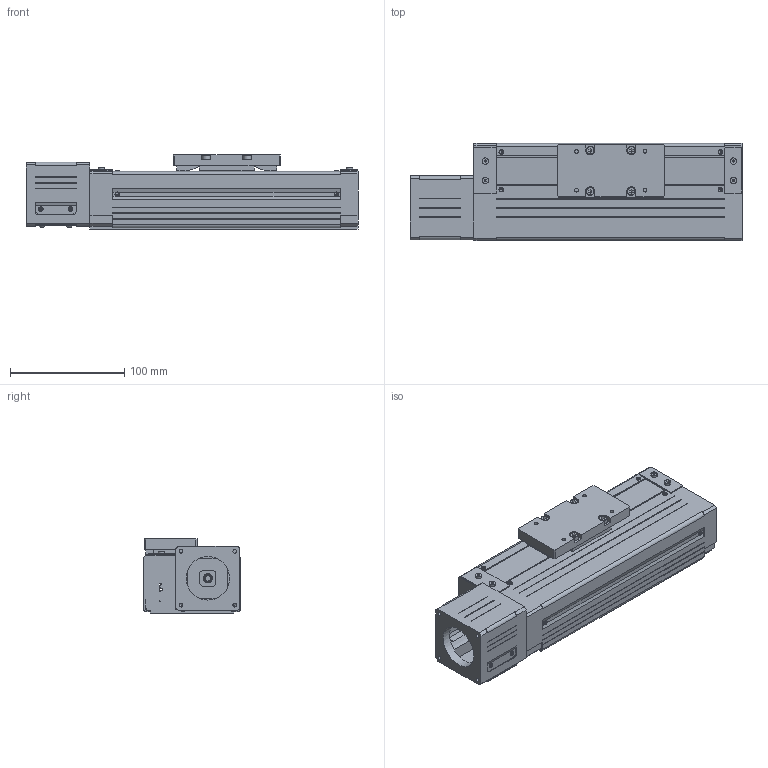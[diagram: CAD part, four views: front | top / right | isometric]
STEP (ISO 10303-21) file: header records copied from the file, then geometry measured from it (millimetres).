
FILE_DESCRIPTION((''),'2;1');
FILE_NAME('D:\製品 (図面)\カタログ用3D\SU部品\SU85×65\ダウンロード用\SU85×65-MB56\SU85×65-100-MB56.stp','2011-07-01T17:14:15',('Tsuchiya'),(''),'Autodesk Inventor 10','Autodesk Inventor 10','');
FILE_SCHEMA(('AUTOMOTIVE_DESIGN { 1 0 10303 214 1 1 1 1 }'));
Length unit declared in the file: millimetre
Products named in the file (3): SU85×65-100-MB56; SU85×65-100-MB561; SU85×65-100-MB562
Assembly tree (2 placements, depth 2):
  SU85×65-100-MB56
    SU85×65-100-MB561
    SU85×65-100-MB562
Bounding box: 291 x 85 x 65 mm (x, y, z)
Volume: 637690.4 mm3; surface area: 193943.2 mm2
Topology: 8 solids, 8 shells, 839 faces, 2204 edges, 1426 vertices
Faces by surface type: plane 713, cylinder 94, cone 16, torus 12, bspline 4
Full cylindrical faces by diameter (mm): 3.242 x8, 4 x4, 4.134 x4, 4.5 x4, 5.5 x4, 6 x1, 7 x4, 8 x1, 11.5 x1, 12 x1, 13 x1, 38.1 x1, 43 x1
Entity records: 25606 total; most frequent: CARTESIAN_POINT 5155, ORIENTED_EDGE 4216, DIRECTION 4008, EDGE_CURVE 2108, VECTOR 1712, LINE 1712, VERTEX_POINT 1397, AXIS2_PLACEMENT_3D 1148
